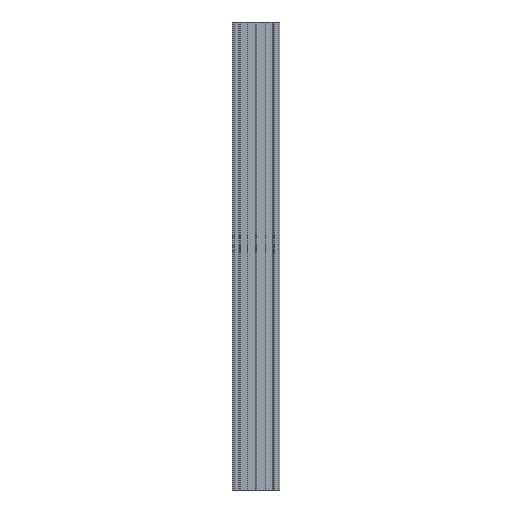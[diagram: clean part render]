
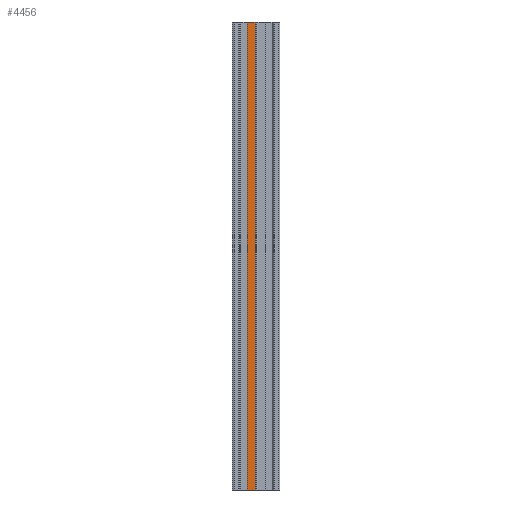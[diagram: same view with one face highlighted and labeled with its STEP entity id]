
A CAD part, front view. The second image highlights one B-rep face of the part: STEP entity #4456.
In plain terms, the highlighted planar face has unit normal (0, -1, 0).
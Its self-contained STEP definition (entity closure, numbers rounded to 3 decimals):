
#1 = VERTEX_POINT ( 'NONE', #930 ) ;
#165 = LINE ( 'NONE', #2950, #968 ) ;
#206 = DIRECTION ( 'NONE',  ( 1., 0., 0. ) ) ;
#286 = EDGE_LOOP ( 'NONE', ( #4173, #800, #1409, #697 ) ) ;
#697 = ORIENTED_EDGE ( 'NONE', *, *, #3100, .T. ) ;
#800 = ORIENTED_EDGE ( 'NONE', *, *, #3074, .F. ) ;
#930 = CARTESIAN_POINT ( 'NONE',  ( 33.668, 35.55, 1000. ) ) ;
#968 = VECTOR ( 'NONE', #2242, 1000. ) ;
#1072 = VECTOR ( 'NONE', #1902, 1000. ) ;
#1255 = CARTESIAN_POINT ( 'NONE',  ( 0., 35.55, 1000. ) ) ;
#1335 = VERTEX_POINT ( 'NONE', #2649 ) ;
#1373 = DIRECTION ( 'NONE',  ( 0., 0., 1. ) ) ;
#1409 = ORIENTED_EDGE ( 'NONE', *, *, #3217, .F. ) ;
#1619 = AXIS2_PLACEMENT_3D ( 'NONE', #3109, #3468, #1373 ) ;
#1687 = CARTESIAN_POINT ( 'NONE',  ( 33.668, 35.55, 0. ) ) ;
#1902 = DIRECTION ( 'NONE',  ( 0., 0., -1. ) ) ;
#2008 = LINE ( 'NONE', #2231, #1072 ) ;
#2015 = VERTEX_POINT ( 'NONE', #1687 ) ;
#2231 = CARTESIAN_POINT ( 'NONE',  ( 50.568, 35.55, 1000. ) ) ;
#2242 = DIRECTION ( 'NONE',  ( 0., 0., -1. ) ) ;
#2274 = CARTESIAN_POINT ( 'NONE',  ( 0., 35.55, 0. ) ) ;
#2504 = VERTEX_POINT ( 'NONE', #3750 ) ;
#2607 = LINE ( 'NONE', #1255, #4135 ) ;
#2649 = CARTESIAN_POINT ( 'NONE',  ( 50.568, 35.55, 1000. ) ) ;
#2766 = PLANE ( 'NONE',  #1619 ) ;
#2950 = CARTESIAN_POINT ( 'NONE',  ( 33.668, 35.55, 1000. ) ) ;
#3074 = EDGE_CURVE ( 'NONE', #1335, #2504, #2008, .T. ) ;
#3100 = EDGE_CURVE ( 'NONE', #1, #2015, #165, .T. ) ;
#3109 = CARTESIAN_POINT ( 'NONE',  ( 0., 35.55, 1000. ) ) ;
#3162 = EDGE_CURVE ( 'NONE', #2015, #2504, #4466, .T. ) ;
#3217 = EDGE_CURVE ( 'NONE', #1, #1335, #2607, .T. ) ;
#3468 = DIRECTION ( 'NONE',  ( 0., 1., 0. ) ) ;
#3747 = FACE_OUTER_BOUND ( 'NONE', #286, .T. ) ;
#3750 = CARTESIAN_POINT ( 'NONE',  ( 50.568, 35.55, 0. ) ) ;
#4023 = DIRECTION ( 'NONE',  ( 1., 0., 0. ) ) ;
#4135 = VECTOR ( 'NONE', #206, 1000. ) ;
#4173 = ORIENTED_EDGE ( 'NONE', *, *, #3162, .T. ) ;
#4349 = VECTOR ( 'NONE', #4023, 1000. ) ;
#4456 = ADVANCED_FACE ( 'NONE', ( #3747 ), #2766, .F. ) ;
#4466 = LINE ( 'NONE', #2274, #4349 ) ;
